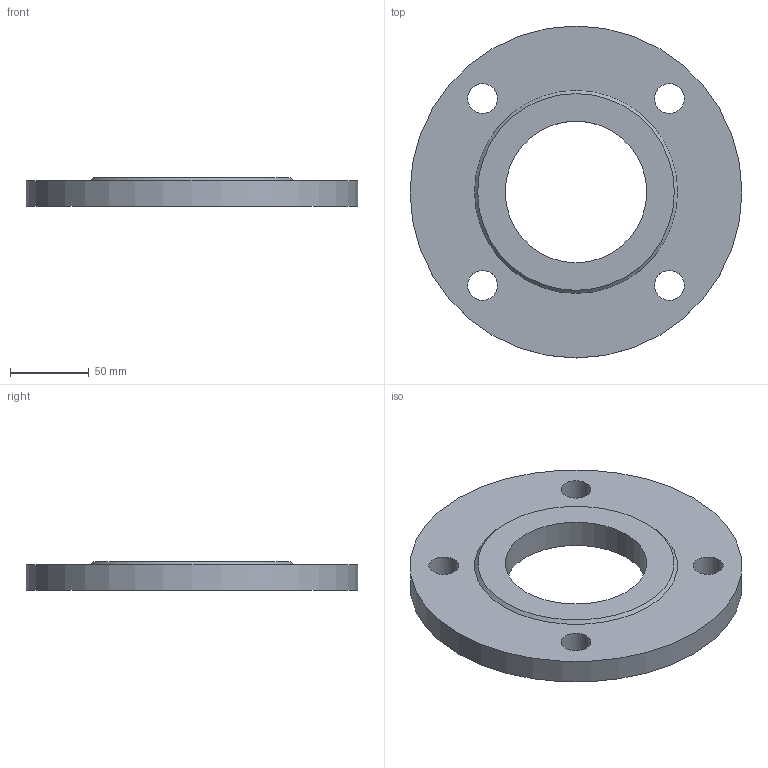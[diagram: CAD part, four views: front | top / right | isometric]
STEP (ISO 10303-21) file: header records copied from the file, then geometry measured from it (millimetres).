
FILE_DESCRIPTION(/* description */ (''),/* implementation_level */ '2;1');
FILE_NAME(/* name */ 'C:\Users\D\Documents\Inventor\HP\JIS\フランジ\水道用フランジF12\PL\ffws_pl_80.stp',/* time_stamp */ '2024-08-28T10:12:49+09:00',/* author */ ('D'),/* organization */ (''),/* preprocessor_version */ 'ST-DEVELOPER v18',/* originating_system */ 'Autodesk Inventor 2020',/* authorisation */ '');
FILE_SCHEMA (('AUTOMOTIVE_DESIGN { 1 0 10303 214 3 1 1 }'));
Length unit declared in the file: millimetre
Products named in the file (1): ffws_pl_80
Bounding box: 211 x 211 x 18 mm (x, y, z)
Volume: 452148 mm3; surface area: 74787.8 mm2
Topology: 1 solids, 1 shells, 10 faces, 30 edges, 23 vertices
Faces by surface type: cylinder 6, plane 3, cone 1
Full cylindrical faces by diameter (mm): 19 x4, 90 x1, 211 x1
Entity records: 430 total; most frequent: DIRECTION 75, CARTESIAN_POINT 64, ORIENTED_EDGE 60, AXIS2_PLACEMENT_3D 34, EDGE_CURVE 30, CIRCLE 23, VERTEX_POINT 23, EDGE_LOOP 21
